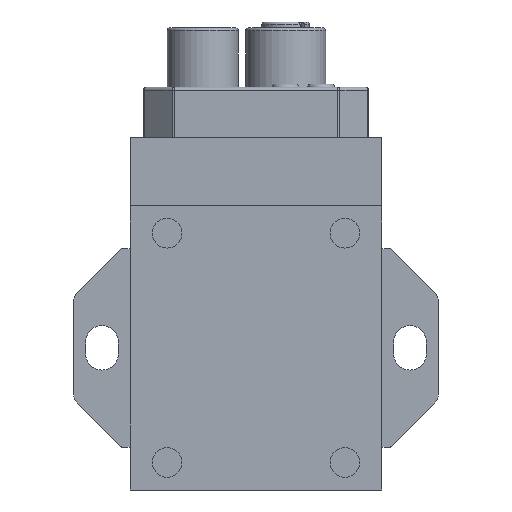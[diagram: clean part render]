
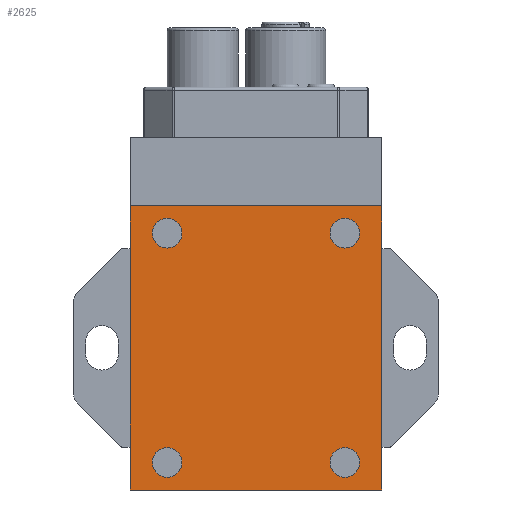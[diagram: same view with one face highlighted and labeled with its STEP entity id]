
A CAD part, front view. The second image highlights one B-rep face of the part: STEP entity #2625.
In plain terms, the highlighted planar face has unit normal (0, -1, 0).
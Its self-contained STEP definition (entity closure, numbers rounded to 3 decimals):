
#124 = CARTESIAN_POINT ( 'NONE',  ( 21.25, -21., 40.75 ) ) ;
#1552 = DIRECTION ( 'NONE',  ( 0., 0., -1. ) ) ;
#1553 = VECTOR ( 'NONE', #1552, 1000. ) ;
#1554 = CARTESIAN_POINT ( 'NONE',  ( 21.25, -21., 48. ) ) ;
#1555 = LINE ( 'NONE', #1554, #1553 ) ;
#1557 = DIRECTION ( 'NONE',  ( 0., 0., -1. ) ) ;
#1558 = VECTOR ( 'NONE', #1557, 1000. ) ;
#1559 = CARTESIAN_POINT ( 'NONE',  ( -21.25, -21., 48. ) ) ;
#1560 = LINE ( 'NONE', #1559, #1558 ) ;
#1571 = CARTESIAN_POINT ( 'NONE',  ( -21.25, -21., 48. ) ) ;
#1572 = DIRECTION ( 'NONE',  ( 0., 0., -1. ) ) ;
#1573 = VECTOR ( 'NONE', #1572, 1000. ) ;
#1574 = CARTESIAN_POINT ( 'NONE',  ( -21.25, -21., 48. ) ) ;
#1575 = LINE ( 'NONE', #1574, #1573 ) ;
#1576 = CARTESIAN_POINT ( 'NONE',  ( -21.25, -21., 40.75 ) ) ;
#1583 = DIRECTION ( 'NONE',  ( 0., 0., -1. ) ) ;
#1584 = VECTOR ( 'NONE', #1583, 1000. ) ;
#1585 = CARTESIAN_POINT ( 'NONE',  ( 21.25, -21., 48. ) ) ;
#1586 = LINE ( 'NONE', #1585, #1584 ) ;
#1635 = DIRECTION ( 'NONE',  ( 1., 0., 0. ) ) ;
#1636 = VECTOR ( 'NONE', #1635, 1000. ) ;
#1637 = CARTESIAN_POINT ( 'NONE',  ( -21.25, -21., 48. ) ) ;
#1638 = LINE ( 'NONE', #1637, #1636 ) ;
#1652 = CARTESIAN_POINT ( 'NONE',  ( 21.25, -21., 0. ) ) ;
#1697 = CARTESIAN_POINT ( 'NONE',  ( 21.25, -21., 48. ) ) ;
#1712 = DIRECTION ( 'NONE',  ( 1., 0., 0. ) ) ;
#1713 = VECTOR ( 'NONE', #1712, 1000. ) ;
#1714 = CARTESIAN_POINT ( 'NONE',  ( -21.25, -21., 0. ) ) ;
#1715 = LINE ( 'NONE', #1714, #1713 ) ;
#1740 = CARTESIAN_POINT ( 'NONE',  ( -21.25, -21., 7.25 ) ) ;
#1741 = DIRECTION ( 'NONE',  ( 0., 0., -1. ) ) ;
#1742 = VECTOR ( 'NONE', #1741, 1000. ) ;
#1743 = CARTESIAN_POINT ( 'NONE',  ( -21.25, -21., 48. ) ) ;
#1744 = LINE ( 'NONE', #1743, #1742 ) ;
#1745 = CARTESIAN_POINT ( 'NONE',  ( -21.25, -21., 0. ) ) ;
#1768 = DIRECTION ( 'NONE',  ( 0., 0., -1. ) ) ;
#1769 = VECTOR ( 'NONE', #1768, 1000. ) ;
#1770 = CARTESIAN_POINT ( 'NONE',  ( 21.25, -21., 48. ) ) ;
#1771 = LINE ( 'NONE', #1770, #1769 ) ;
#2060 = VERTEX_POINT ( 'NONE', #5623 ) ;
#2062 = EDGE_CURVE ( 'NONE', #2067, #2060, #5622, .T. ) ;
#2067 = VERTEX_POINT ( 'NONE', #5685 ) ;
#2169 = EDGE_CURVE ( 'NONE', #2237, #2332, #5324, .T. ) ;
#2188 = EDGE_CURVE ( 'NONE', #2230, #2189, #5319, .T. ) ;
#2189 = VERTEX_POINT ( 'NONE', #5314 ) ;
#2230 = VERTEX_POINT ( 'NONE', #5522 ) ;
#2237 = VERTEX_POINT ( 'NONE', #5463 ) ;
#2295 = VERTEX_POINT ( 'NONE', #2618 ) ;
#2297 = EDGE_CURVE ( 'NONE', #2295, #2298, #2624, .T. ) ;
#2298 = VERTEX_POINT ( 'NONE', #2609 ) ;
#2332 = VERTEX_POINT ( 'NONE', #4395 ) ;
#2472 = VERTEX_POINT ( 'NONE', #124 ) ;
#2582 = VERTEX_POINT ( 'NONE', #4788 ) ;
#2609 = CARTESIAN_POINT ( 'NONE',  ( 15., -21., 45.85 ) ) ;
#2611 = ORIENTED_EDGE ( 'NONE', *, *, #2188, .F. ) ;
#2612 = EDGE_LOOP ( 'NONE', ( #2613, #4158 ) ) ;
#2613 = ORIENTED_EDGE ( 'NONE', *, *, #2614, .F. ) ;
#2614 = EDGE_CURVE ( 'NONE', #2060, #2067, #4837, .T. ) ;
#2618 = CARTESIAN_POINT ( 'NONE',  ( 15., -21., 40.85 ) ) ;
#2620 = DIRECTION ( 'NONE',  ( 0., 0., 1. ) ) ;
#2621 = DIRECTION ( 'NONE',  ( 0., -1., 0. ) ) ;
#2622 = CARTESIAN_POINT ( 'NONE',  ( 15., -21., 43.35 ) ) ;
#2623 = AXIS2_PLACEMENT_3D ( 'NONE', #2622, #2621, #2620 ) ;
#2624 = CIRCLE ( 'NONE', #2623, 2.5 ) ;
#2625 = ADVANCED_FACE ( 'NONE', ( #4829, #4847, #4846, #4845, #4844 ), #4873, .F. ) ;
#2626 = EDGE_LOOP ( 'NONE', ( #2627, #2611 ) ) ;
#2627 = ORIENTED_EDGE ( 'NONE', *, *, #2628, .F. ) ;
#2628 = EDGE_CURVE ( 'NONE', #2189, #2230, #4884, .T. ) ;
#2629 = ORIENTED_EDGE ( 'NONE', *, *, #2636, .F. ) ;
#2632 = ORIENTED_EDGE ( 'NONE', *, *, #2297, .F. ) ;
#2636 = EDGE_CURVE ( 'NONE', #2298, #2295, #4897, .T. ) ;
#2638 = ORIENTED_EDGE ( 'NONE', *, *, #2642, .F. ) ;
#2642 = EDGE_CURVE ( 'NONE', #2332, #2237, #4896, .T. ) ;
#2742 = ORIENTED_EDGE ( 'NONE', *, *, #2169, .F. ) ;
#2836 = EDGE_LOOP ( 'NONE', ( #2638, #2742 ) ) ;
#4064 = VERTEX_POINT ( 'NONE', #1576 ) ;
#4066 = EDGE_CURVE ( 'NONE', #4067, #4064, #1575, .T. ) ;
#4067 = VERTEX_POINT ( 'NONE', #1571 ) ;
#4077 = ORIENTED_EDGE ( 'NONE', *, *, #4066, .T. ) ;
#4078 = ORIENTED_EDGE ( 'NONE', *, *, #4079, .T. ) ;
#4079 = EDGE_CURVE ( 'NONE', #4064, #4152, #1560, .T. ) ;
#4080 = ORIENTED_EDGE ( 'NONE', *, *, #4151, .T. ) ;
#4081 = EDGE_LOOP ( 'NONE', ( #2629, #2632 ) ) ;
#4083 = EDGE_CURVE ( 'NONE', #2472, #2582, #1555, .T. ) ;
#4093 = EDGE_CURVE ( 'NONE', #2582, #4115, #1586, .T. ) ;
#4102 = ORIENTED_EDGE ( 'NONE', *, *, #4163, .F. ) ;
#4103 = ORIENTED_EDGE ( 'NONE', *, *, #4104, .F. ) ;
#4104 = EDGE_CURVE ( 'NONE', #4067, #4122, #1638, .T. ) ;
#4115 = VERTEX_POINT ( 'NONE', #1652 ) ;
#4122 = VERTEX_POINT ( 'NONE', #1697 ) ;
#4134 = ORIENTED_EDGE ( 'NONE', *, *, #4141, .T. ) ;
#4141 = EDGE_CURVE ( 'NONE', #4149, #4115, #1715, .T. ) ;
#4142 = ORIENTED_EDGE ( 'NONE', *, *, #4093, .F. ) ;
#4143 = ORIENTED_EDGE ( 'NONE', *, *, #4083, .F. ) ;
#4149 = VERTEX_POINT ( 'NONE', #1745 ) ;
#4151 = EDGE_CURVE ( 'NONE', #4152, #4149, #1744, .T. ) ;
#4152 = VERTEX_POINT ( 'NONE', #1740 ) ;
#4158 = ORIENTED_EDGE ( 'NONE', *, *, #2062, .F. ) ;
#4159 = EDGE_LOOP ( 'NONE', ( #4134, #4142, #4143, #4102, #4103, #4077, #4078, #4080 ) ) ;
#4163 = EDGE_CURVE ( 'NONE', #4122, #2472, #1771, .T. ) ;
#4395 = CARTESIAN_POINT ( 'NONE',  ( 15., -21., 7.15 ) ) ;
#4788 = CARTESIAN_POINT ( 'NONE',  ( 21.25, -21., 7.25 ) ) ;
#4829 = FACE_BOUND ( 'NONE', #2626, .T. ) ;
#4832 = DIRECTION ( 'NONE',  ( 0., -1., 0. ) ) ;
#4833 = AXIS2_PLACEMENT_3D ( 'NONE', #4834, #4832, #4852 ) ;
#4834 = CARTESIAN_POINT ( 'NONE',  ( -15., -21., 43.35 ) ) ;
#4837 = CIRCLE ( 'NONE', #4833, 2.5 ) ;
#4844 = FACE_BOUND ( 'NONE', #2836, .T. ) ;
#4845 = FACE_BOUND ( 'NONE', #4081, .T. ) ;
#4846 = FACE_OUTER_BOUND ( 'NONE', #4159, .T. ) ;
#4847 = FACE_BOUND ( 'NONE', #2612, .T. ) ;
#4852 = DIRECTION ( 'NONE',  ( 0., 0., 1. ) ) ;
#4869 = DIRECTION ( 'NONE',  ( 0., 1., 0. ) ) ;
#4870 = DIRECTION ( 'NONE',  ( 0., 0., 1. ) ) ;
#4873 = PLANE ( 'NONE',  #4874 ) ;
#4874 = AXIS2_PLACEMENT_3D ( 'NONE', #4880, #4869, #4870 ) ;
#4875 = DIRECTION ( 'NONE',  ( 0., 0., 1. ) ) ;
#4876 = DIRECTION ( 'NONE',  ( 0., -1., 0. ) ) ;
#4880 = CARTESIAN_POINT ( 'NONE',  ( -21.25, -21., 48. ) ) ;
#4881 = CARTESIAN_POINT ( 'NONE',  ( -15., -21., 4.65 ) ) ;
#4882 = AXIS2_PLACEMENT_3D ( 'NONE', #4881, #4876, #4875 ) ;
#4884 = CIRCLE ( 'NONE', #4882, 2.5 ) ;
#4885 = DIRECTION ( 'NONE',  ( 0., 0., 1. ) ) ;
#4886 = DIRECTION ( 'NONE',  ( 0., -1., 0. ) ) ;
#4887 = CARTESIAN_POINT ( 'NONE',  ( 15., -21., 43.35 ) ) ;
#4888 = DIRECTION ( 'NONE',  ( 0., 0., 1. ) ) ;
#4889 = DIRECTION ( 'NONE',  ( 0., -1., 0. ) ) ;
#4895 = AXIS2_PLACEMENT_3D ( 'NONE', #4899, #4889, #4888 ) ;
#4896 = CIRCLE ( 'NONE', #4895, 2.5 ) ;
#4897 = CIRCLE ( 'NONE', #4903, 2.5 ) ;
#4899 = CARTESIAN_POINT ( 'NONE',  ( 15., -21., 4.65 ) ) ;
#4903 = AXIS2_PLACEMENT_3D ( 'NONE', #4887, #4886, #4885 ) ;
#5314 = CARTESIAN_POINT ( 'NONE',  ( -15., -21., 7.15 ) ) ;
#5315 = DIRECTION ( 'NONE',  ( 0., 0., 1. ) ) ;
#5316 = DIRECTION ( 'NONE',  ( 0., -1., 0. ) ) ;
#5317 = CARTESIAN_POINT ( 'NONE',  ( -15., -21., 4.65 ) ) ;
#5318 = AXIS2_PLACEMENT_3D ( 'NONE', #5317, #5316, #5315 ) ;
#5319 = CIRCLE ( 'NONE', #5318, 2.5 ) ;
#5323 = AXIS2_PLACEMENT_3D ( 'NONE', #5382, #5381, #5380 ) ;
#5324 = CIRCLE ( 'NONE', #5323, 2.5 ) ;
#5380 = DIRECTION ( 'NONE',  ( 0., 0., 1. ) ) ;
#5381 = DIRECTION ( 'NONE',  ( 0., -1., 0. ) ) ;
#5382 = CARTESIAN_POINT ( 'NONE',  ( 15., -21., 4.65 ) ) ;
#5463 = CARTESIAN_POINT ( 'NONE',  ( 15., -21., 2.15 ) ) ;
#5522 = CARTESIAN_POINT ( 'NONE',  ( -15., -21., 2.15 ) ) ;
#5618 = DIRECTION ( 'NONE',  ( 0., 0., 1. ) ) ;
#5619 = DIRECTION ( 'NONE',  ( 0., -1., 0. ) ) ;
#5620 = CARTESIAN_POINT ( 'NONE',  ( -15., -21., 43.35 ) ) ;
#5621 = AXIS2_PLACEMENT_3D ( 'NONE', #5620, #5619, #5618 ) ;
#5622 = CIRCLE ( 'NONE', #5621, 2.5 ) ;
#5623 = CARTESIAN_POINT ( 'NONE',  ( -15., -21., 45.85 ) ) ;
#5685 = CARTESIAN_POINT ( 'NONE',  ( -15., -21., 40.85 ) ) ;
